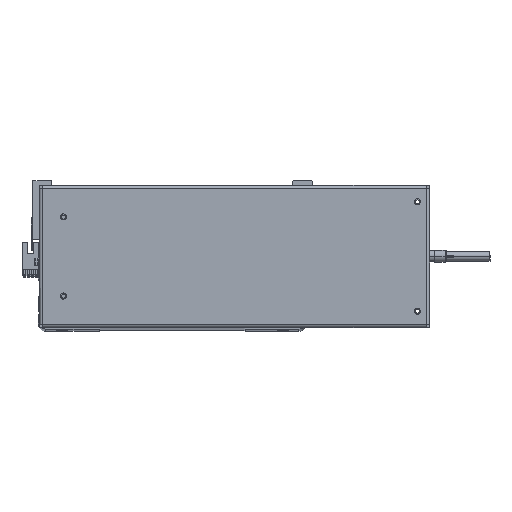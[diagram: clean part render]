
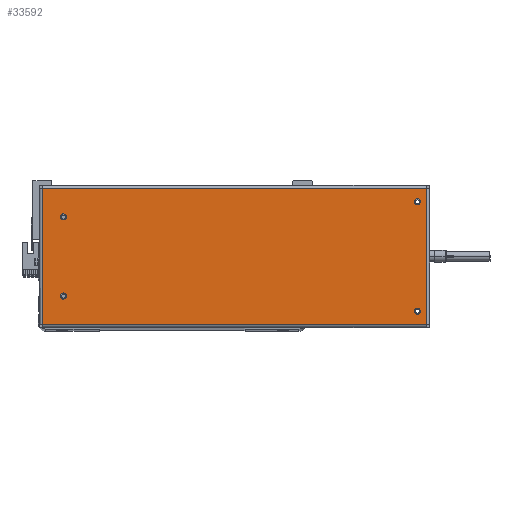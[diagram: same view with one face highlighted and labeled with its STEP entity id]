
A CAD part, top view. The second image highlights one B-rep face of the part: STEP entity #33592.
In plain terms, the highlighted planar face has unit normal (0, 0, 1).
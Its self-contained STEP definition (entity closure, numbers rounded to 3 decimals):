
#450 = FACE_BOUND ( 'NONE', #13365, .T. ) ;
#461 = CARTESIAN_POINT ( 'NONE',  ( -143., 32.5, 0. ) ) ;
#471 = DIRECTION ( 'NONE',  ( 0., 0., 1. ) ) ;
#801 = CARTESIAN_POINT ( 'NONE',  ( 157.6, -55.6, 0. ) ) ;
#968 = VERTEX_POINT ( 'NONE', #1516 ) ;
#1150 = DIRECTION ( 'NONE',  ( 1., 0., 0. ) ) ;
#1516 = CARTESIAN_POINT ( 'NONE',  ( 157.6, -55.6, 0. ) ) ;
#1623 = LINE ( 'NONE', #801, #12232 ) ;
#1632 = ORIENTED_EDGE ( 'NONE', *, *, #13212, .F. ) ;
#1862 = DIRECTION ( 'NONE',  ( 0., -1., 0. ) ) ;
#2020 = CIRCLE ( 'NONE', #33829, 2.5 ) ;
#2286 = ORIENTED_EDGE ( 'NONE', *, *, #14039, .F. ) ;
#2305 = VECTOR ( 'NONE', #34362, 1000. ) ;
#3194 = AXIS2_PLACEMENT_3D ( 'NONE', #14149, #16840, #39072 ) ;
#3679 = ORIENTED_EDGE ( 'NONE', *, *, #30023, .F. ) ;
#3791 = LINE ( 'NONE', #9749, #2305 ) ;
#4150 = AXIS2_PLACEMENT_3D ( 'NONE', #32860, #14347, #23675 ) ;
#4162 = AXIS2_PLACEMENT_3D ( 'NONE', #6780, #471, #12859 ) ;
#4363 = VERTEX_POINT ( 'NONE', #6214 ) ;
#4471 = EDGE_CURVE ( 'NONE', #968, #4485, #1623, .T. ) ;
#4485 = VERTEX_POINT ( 'NONE', #31699 ) ;
#5642 = VERTEX_POINT ( 'NONE', #36131 ) ;
#6214 = CARTESIAN_POINT ( 'NONE',  ( -143., -32.5, 0. ) ) ;
#6470 = DIRECTION ( 'NONE',  ( 0., 0., 1. ) ) ;
#6594 = AXIS2_PLACEMENT_3D ( 'NONE', #13368, #35023, #25927 ) ;
#6780 = CARTESIAN_POINT ( 'NONE',  ( 150.5, 45., 0. ) ) ;
#6923 = CIRCLE ( 'NONE', #31083, 2.5 ) ;
#7671 = VECTOR ( 'NONE', #1862, 1000. ) ;
#7874 = DIRECTION ( 'NONE',  ( 1., 0., 0. ) ) ;
#9254 = CARTESIAN_POINT ( 'NONE',  ( -157.6, 55.6, 0. ) ) ;
#9283 = CARTESIAN_POINT ( 'NONE',  ( 150.5, -45., 0. ) ) ;
#9604 = EDGE_CURVE ( 'NONE', #30641, #22055, #32777, .T. ) ;
#9749 = CARTESIAN_POINT ( 'NONE',  ( 157.7, 55.6, 0. ) ) ;
#9901 = CARTESIAN_POINT ( 'NONE',  ( 148., 45., 0. ) ) ;
#10549 = FACE_BOUND ( 'NONE', #35680, .T. ) ;
#11696 = VERTEX_POINT ( 'NONE', #461 ) ;
#11951 = AXIS2_PLACEMENT_3D ( 'NONE', #35326, #13275, #1150 ) ;
#12232 = VECTOR ( 'NONE', #22407, 1000. ) ;
#12774 = DIRECTION ( 'NONE',  ( 1., 0., 0. ) ) ;
#12859 = DIRECTION ( 'NONE',  ( 1., 0., 0. ) ) ;
#13212 = EDGE_CURVE ( 'NONE', #11696, #15090, #6923, .T. ) ;
#13275 = DIRECTION ( 'NONE',  ( 0., 0., 1. ) ) ;
#13365 = EDGE_LOOP ( 'NONE', ( #33231, #2286 ) ) ;
#13368 = CARTESIAN_POINT ( 'NONE',  ( 157.7, 58.5, 0. ) ) ;
#13483 = FACE_OUTER_BOUND ( 'NONE', #14604, .T. ) ;
#13767 = PLANE ( 'NONE',  #6594 ) ;
#13777 = DIRECTION ( 'NONE',  ( 0., 0., 1. ) ) ;
#14039 = EDGE_CURVE ( 'NONE', #37676, #33945, #30526, .T. ) ;
#14149 = CARTESIAN_POINT ( 'NONE',  ( 150.5, 45., 0. ) ) ;
#14347 = DIRECTION ( 'NONE',  ( 0., 0., 1. ) ) ;
#14604 = EDGE_LOOP ( 'NONE', ( #39908, #36896, #38370, #36424 ) ) ;
#14845 = CIRCLE ( 'NONE', #34251, 2.5 ) ;
#15090 = VERTEX_POINT ( 'NONE', #39440 ) ;
#15416 = EDGE_CURVE ( 'NONE', #22055, #30641, #34057, .T. ) ;
#15914 = CARTESIAN_POINT ( 'NONE',  ( 148., -45., 0. ) ) ;
#16777 = ORIENTED_EDGE ( 'NONE', *, *, #9604, .F. ) ;
#16840 = DIRECTION ( 'NONE',  ( 0., 0., 1. ) ) ;
#17360 = VECTOR ( 'NONE', #7874, 1000. ) ;
#18947 = ORIENTED_EDGE ( 'NONE', *, *, #21310, .F. ) ;
#18964 = EDGE_CURVE ( 'NONE', #4485, #31104, #3791, .T. ) ;
#20131 = CARTESIAN_POINT ( 'NONE',  ( -140.5, 32.5, 0. ) ) ;
#20224 = EDGE_CURVE ( 'NONE', #33945, #37676, #27818, .T. ) ;
#20388 = EDGE_LOOP ( 'NONE', ( #3679, #1632 ) ) ;
#20647 = EDGE_LOOP ( 'NONE', ( #18947, #30625 ) ) ;
#21198 = FACE_BOUND ( 'NONE', #20388, .T. ) ;
#21310 = EDGE_CURVE ( 'NONE', #30358, #4363, #14845, .T. ) ;
#21457 = CIRCLE ( 'NONE', #4150, 2.5 ) ;
#21898 = CARTESIAN_POINT ( 'NONE',  ( -140.5, -32.5, 0. ) ) ;
#22055 = VERTEX_POINT ( 'NONE', #28828 ) ;
#22407 = DIRECTION ( 'NONE',  ( 0., 1., 0. ) ) ;
#23675 = DIRECTION ( 'NONE',  ( 1., 0., 0. ) ) ;
#23708 = DIRECTION ( 'NONE',  ( 0., 0., 1. ) ) ;
#24433 = CARTESIAN_POINT ( 'NONE',  ( 153., 45., 0. ) ) ;
#25276 = AXIS2_PLACEMENT_3D ( 'NONE', #9283, #34293, #12774 ) ;
#25462 = EDGE_CURVE ( 'NONE', #4363, #30358, #2020, .T. ) ;
#25927 = DIRECTION ( 'NONE',  ( -1., 0., 0. ) ) ;
#26380 = CARTESIAN_POINT ( 'NONE',  ( -157.7, -55.6, 0. ) ) ;
#26593 = EDGE_CURVE ( 'NONE', #5642, #968, #38219, .T. ) ;
#27818 = CIRCLE ( 'NONE', #4162, 2.5 ) ;
#28116 = DIRECTION ( 'NONE',  ( 1., 0., 0. ) ) ;
#28828 = CARTESIAN_POINT ( 'NONE',  ( 153., -45., 0. ) ) ;
#29916 = LINE ( 'NONE', #38762, #7671 ) ;
#30023 = EDGE_CURVE ( 'NONE', #15090, #11696, #21457, .T. ) ;
#30358 = VERTEX_POINT ( 'NONE', #38821 ) ;
#30526 = CIRCLE ( 'NONE', #3194, 2.5 ) ;
#30625 = ORIENTED_EDGE ( 'NONE', *, *, #25462, .F. ) ;
#30641 = VERTEX_POINT ( 'NONE', #15914 ) ;
#31083 = AXIS2_PLACEMENT_3D ( 'NONE', #20131, #23708, #36174 ) ;
#31104 = VERTEX_POINT ( 'NONE', #9254 ) ;
#31350 = FACE_BOUND ( 'NONE', #20647, .T. ) ;
#31699 = CARTESIAN_POINT ( 'NONE',  ( 157.6, 55.6, 0. ) ) ;
#32777 = CIRCLE ( 'NONE', #25276, 2.5 ) ;
#32860 = CARTESIAN_POINT ( 'NONE',  ( -140.5, 32.5, 0. ) ) ;
#33231 = ORIENTED_EDGE ( 'NONE', *, *, #20224, .F. ) ;
#33482 = EDGE_CURVE ( 'NONE', #31104, #5642, #29916, .T. ) ;
#33592 = ADVANCED_FACE ( 'NONE', ( #31350, #21198, #10549, #450, #13483 ), #13767, .F. ) ;
#33829 = AXIS2_PLACEMENT_3D ( 'NONE', #35439, #13777, #38175 ) ;
#33945 = VERTEX_POINT ( 'NONE', #24433 ) ;
#34057 = CIRCLE ( 'NONE', #11951, 2.5 ) ;
#34251 = AXIS2_PLACEMENT_3D ( 'NONE', #21898, #6470, #28116 ) ;
#34293 = DIRECTION ( 'NONE',  ( 0., 0., 1. ) ) ;
#34362 = DIRECTION ( 'NONE',  ( -1., 0., 0. ) ) ;
#34918 = ORIENTED_EDGE ( 'NONE', *, *, #15416, .F. ) ;
#35023 = DIRECTION ( 'NONE',  ( 0., 0., -1. ) ) ;
#35326 = CARTESIAN_POINT ( 'NONE',  ( 150.5, -45., 0. ) ) ;
#35439 = CARTESIAN_POINT ( 'NONE',  ( -140.5, -32.5, 0. ) ) ;
#35680 = EDGE_LOOP ( 'NONE', ( #34918, #16777 ) ) ;
#36131 = CARTESIAN_POINT ( 'NONE',  ( -157.6, -55.6, 0. ) ) ;
#36174 = DIRECTION ( 'NONE',  ( 1., 0., 0. ) ) ;
#36424 = ORIENTED_EDGE ( 'NONE', *, *, #18964, .T. ) ;
#36896 = ORIENTED_EDGE ( 'NONE', *, *, #26593, .T. ) ;
#37676 = VERTEX_POINT ( 'NONE', #9901 ) ;
#38175 = DIRECTION ( 'NONE',  ( 1., 0., 0. ) ) ;
#38219 = LINE ( 'NONE', #26380, #17360 ) ;
#38370 = ORIENTED_EDGE ( 'NONE', *, *, #4471, .T. ) ;
#38762 = CARTESIAN_POINT ( 'NONE',  ( -157.6, 55.6, 0. ) ) ;
#38821 = CARTESIAN_POINT ( 'NONE',  ( -138., -32.5, 0. ) ) ;
#39072 = DIRECTION ( 'NONE',  ( 1., 0., 0. ) ) ;
#39440 = CARTESIAN_POINT ( 'NONE',  ( -138., 32.5, 0. ) ) ;
#39908 = ORIENTED_EDGE ( 'NONE', *, *, #33482, .T. ) ;
